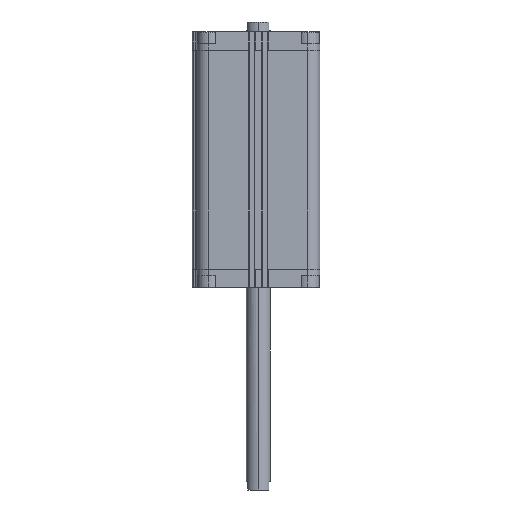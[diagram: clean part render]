
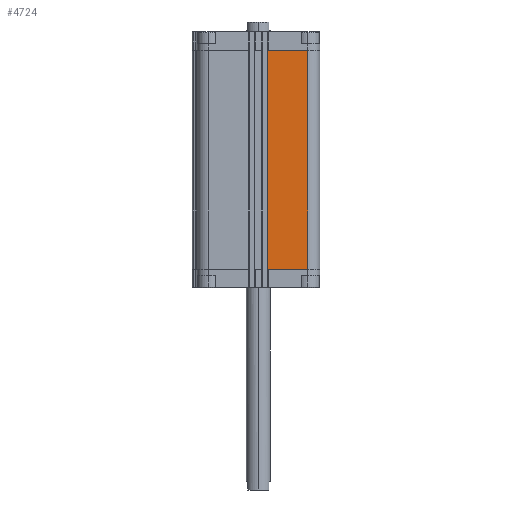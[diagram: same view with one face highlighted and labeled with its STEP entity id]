
A CAD part, left-side view. The second image highlights one B-rep face of the part: STEP entity #4724.
In plain terms, the highlighted planar face has unit normal (-1, 0, 0).
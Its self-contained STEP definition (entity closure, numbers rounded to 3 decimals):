
#9 = EDGE_LOOP ( 'NONE', ( #7053, #2716, #15069, #12815 ) ) ;
#278 = FACE_OUTER_BOUND ( 'NONE', #9, .T. ) ;
#1565 = EDGE_CURVE ( 'NONE', #8822, #4170, #3596, .T. ) ;
#2256 = VECTOR ( 'NONE', #3326, 1000. ) ;
#2716 = ORIENTED_EDGE ( 'NONE', *, *, #14922, .F. ) ;
#3326 = DIRECTION ( 'NONE',  ( 0., -1., 0. ) ) ;
#3596 = LINE ( 'NONE', #17897, #18580 ) ;
#3711 = DIRECTION ( 'NONE',  ( -1., 0., 0. ) ) ;
#4170 = VERTEX_POINT ( 'NONE', #11198 ) ;
#4724 = ADVANCED_FACE ( 'NONE', ( #278 ), #13375, .T. ) ;
#5211 = DIRECTION ( 'NONE',  ( 0., -1., 0. ) ) ;
#5386 = DIRECTION ( 'NONE',  ( 0., -1., 0. ) ) ;
#6198 = CARTESIAN_POINT ( 'NONE',  ( -64., -51.5, -247. ) ) ;
#7053 = ORIENTED_EDGE ( 'NONE', *, *, #16362, .F. ) ;
#8342 = LINE ( 'NONE', #19557, #2256 ) ;
#8822 = VERTEX_POINT ( 'NONE', #6198 ) ;
#10249 = CARTESIAN_POINT ( 'NONE',  ( -64., -9.95, -247. ) ) ;
#10250 = AXIS2_PLACEMENT_3D ( 'NONE', #10249, #3711, #5211 ) ;
#10612 = CARTESIAN_POINT ( 'NONE',  ( -64., -9.95, -19.5 ) ) ;
#11039 = VECTOR ( 'NONE', #12924, 1000. ) ;
#11198 = CARTESIAN_POINT ( 'NONE',  ( -64., -51.5, -19.5 ) ) ;
#11317 = CARTESIAN_POINT ( 'NONE',  ( -64., -9.95, -247. ) ) ;
#12783 = VERTEX_POINT ( 'NONE', #17278 ) ;
#12815 = ORIENTED_EDGE ( 'NONE', *, *, #1565, .T. ) ;
#12924 = DIRECTION ( 'NONE',  ( 0., 0., 1. ) ) ;
#13375 = PLANE ( 'NONE',  #10250 ) ;
#14922 = EDGE_CURVE ( 'NONE', #12783, #15467, #17779, .T. ) ;
#15069 = ORIENTED_EDGE ( 'NONE', *, *, #17160, .T. ) ;
#15467 = VERTEX_POINT ( 'NONE', #10612 ) ;
#16272 = DIRECTION ( 'NONE',  ( 0., 0., 1. ) ) ;
#16362 = EDGE_CURVE ( 'NONE', #15467, #4170, #8342, .T. ) ;
#17160 = EDGE_CURVE ( 'NONE', #12783, #8822, #18386, .T. ) ;
#17278 = CARTESIAN_POINT ( 'NONE',  ( -64., -9.95, -247. ) ) ;
#17320 = VECTOR ( 'NONE', #5386, 1000. ) ;
#17779 = LINE ( 'NONE', #11317, #11039 ) ;
#17897 = CARTESIAN_POINT ( 'NONE',  ( -64., -51.5, -247. ) ) ;
#18386 = LINE ( 'NONE', #19790, #17320 ) ;
#18580 = VECTOR ( 'NONE', #16272, 1000. ) ;
#19557 = CARTESIAN_POINT ( 'NONE',  ( -64., -9.95, -19.5 ) ) ;
#19790 = CARTESIAN_POINT ( 'NONE',  ( -64., -9.95, -247. ) ) ;
